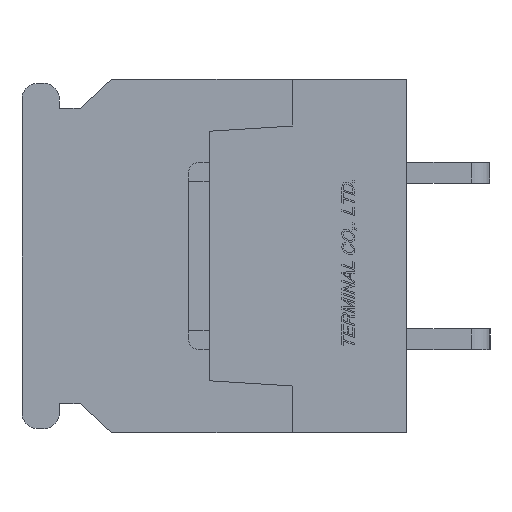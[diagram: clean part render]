
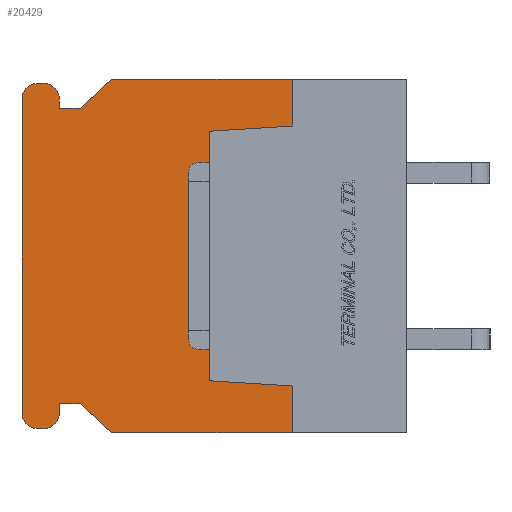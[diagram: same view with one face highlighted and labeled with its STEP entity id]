
A CAD part, left-side view. The second image highlights one B-rep face of the part: STEP entity #20429.
In plain terms, the highlighted planar face has unit normal (-1, 0, 0).
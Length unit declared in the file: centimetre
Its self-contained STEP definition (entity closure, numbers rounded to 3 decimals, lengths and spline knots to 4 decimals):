
#1203=CIRCLE('',#35114,0.075);
#1204=CIRCLE('',#35115,0.075);
#1205=CIRCLE('',#35116,0.075);
#1206=CIRCLE('',#35117,0.075);
#2267=VERTEX_POINT('',#29703);
#2268=VERTEX_POINT('',#29705);
#2324=VERTEX_POINT('',#29847);
#2325=VERTEX_POINT('',#29849);
#2555=VERTEX_POINT('',#30634);
#2556=VERTEX_POINT('',#30636);
#2557=VERTEX_POINT('',#30638);
#2558=VERTEX_POINT('',#30640);
#2559=VERTEX_POINT('',#30642);
#2560=VERTEX_POINT('',#30644);
#2561=VERTEX_POINT('',#30646);
#2562=VERTEX_POINT('',#30648);
#2563=VERTEX_POINT('',#30650);
#2564=VERTEX_POINT('',#30652);
#2565=VERTEX_POINT('',#30654);
#2566=VERTEX_POINT('',#30656);
#2567=VERTEX_POINT('',#30658);
#2568=VERTEX_POINT('',#30661);
#2569=VERTEX_POINT('',#30663);
#2570=VERTEX_POINT('',#30665);
#4256=VECTOR('',#24273,1.);
#4325=VECTOR('',#24368,1.);
#4658=VECTOR('',#25019,1.);
#4659=VECTOR('',#25020,1.);
#4660=VECTOR('',#25021,1.);
#4661=VECTOR('',#25022,1.);
#4662=VECTOR('',#25025,1.);
#4663=VECTOR('',#25028,1.);
#4664=VECTOR('',#25031,1.);
#4665=VECTOR('',#25034,1.);
#4666=VECTOR('',#25035,1.);
#4667=VECTOR('',#25036,1.);
#4668=VECTOR('',#25037,1.);
#4669=VECTOR('',#25038,1.);
#4670=VECTOR('',#25039,1.);
#4671=VECTOR('',#25040,1.);
#6520=LINE('',#29704,#4256);
#6589=LINE('',#29848,#4325);
#6922=LINE('',#30633,#4658);
#6923=LINE('',#30635,#4659);
#6924=LINE('',#30637,#4660);
#6925=LINE('',#30639,#4661);
#6926=LINE('',#30643,#4662);
#6927=LINE('',#30647,#4663);
#6928=LINE('',#30651,#4664);
#6929=LINE('',#30655,#4665);
#6930=LINE('',#30657,#4666);
#6931=LINE('',#30659,#4667);
#6932=LINE('',#30660,#4668);
#6933=LINE('',#30662,#4669);
#6934=LINE('',#30664,#4670);
#6935=LINE('',#30666,#4671);
#9314=EDGE_CURVE('',#2267,#2268,#6520,.T.);
#9387=EDGE_CURVE('',#2324,#2325,#6589,.T.);
#9784=EDGE_CURVE('',#2555,#2325,#6922,.T.);
#9785=EDGE_CURVE('',#2556,#2324,#6923,.T.);
#9786=EDGE_CURVE('',#2557,#2556,#6924,.T.);
#9787=EDGE_CURVE('',#2558,#2557,#6925,.T.);
#9788=EDGE_CURVE('',#2559,#2558,#1203,.T.);
#9789=EDGE_CURVE('',#2560,#2559,#6926,.T.);
#9790=EDGE_CURVE('',#2561,#2560,#1204,.T.);
#9791=EDGE_CURVE('',#2562,#2561,#6927,.T.);
#9792=EDGE_CURVE('',#2563,#2562,#1205,.T.);
#9793=EDGE_CURVE('',#2564,#2563,#6928,.T.);
#9794=EDGE_CURVE('',#2565,#2564,#1206,.T.);
#9795=EDGE_CURVE('',#2566,#2565,#6929,.T.);
#9796=EDGE_CURVE('',#2567,#2566,#6930,.T.);
#9797=EDGE_CURVE('',#2268,#2567,#6931,.T.);
#9798=EDGE_CURVE('',#2267,#2568,#6932,.T.);
#9799=EDGE_CURVE('',#2568,#2569,#6933,.T.);
#9800=EDGE_CURVE('',#2569,#2570,#6934,.T.);
#9801=EDGE_CURVE('',#2570,#2555,#6935,.T.);
#14750=ORIENTED_EDGE('',*,*,#9784,.T.);
#14751=ORIENTED_EDGE('',*,*,#9387,.F.);
#14752=ORIENTED_EDGE('',*,*,#9785,.F.);
#14753=ORIENTED_EDGE('',*,*,#9786,.F.);
#14754=ORIENTED_EDGE('',*,*,#9787,.F.);
#14755=ORIENTED_EDGE('',*,*,#9788,.F.);
#14756=ORIENTED_EDGE('',*,*,#9789,.F.);
#14757=ORIENTED_EDGE('',*,*,#9790,.F.);
#14758=ORIENTED_EDGE('',*,*,#9791,.F.);
#14759=ORIENTED_EDGE('',*,*,#9792,.F.);
#14760=ORIENTED_EDGE('',*,*,#9793,.F.);
#14761=ORIENTED_EDGE('',*,*,#9794,.F.);
#14762=ORIENTED_EDGE('',*,*,#9795,.F.);
#14763=ORIENTED_EDGE('',*,*,#9796,.F.);
#14764=ORIENTED_EDGE('',*,*,#9797,.F.);
#14765=ORIENTED_EDGE('',*,*,#9314,.F.);
#14766=ORIENTED_EDGE('',*,*,#9798,.T.);
#14767=ORIENTED_EDGE('',*,*,#9799,.T.);
#14768=ORIENTED_EDGE('',*,*,#9800,.T.);
#14769=ORIENTED_EDGE('',*,*,#9801,.T.);
#17927=EDGE_LOOP('',(#14750,#14751,#14752,#14753,#14754,#14755,#14756,#14757,
#14758,#14759,#14760,#14761,#14762,#14763,#14764,#14765,#14766,#14767,#14768,
#14769));
#19231=FACE_BOUND('',#17927,.T.);
#20429=ADVANCED_FACE('',(#19231),#21398,.F.);
#21398=PLANE('',#35113);
#24273=DIRECTION('',(0.,1.,0.));
#24368=DIRECTION('',(0.,-1.,0.));
#25018=DIRECTION('',(1.,0.,0.));
#25019=DIRECTION('',(0.,0.,1.));
#25020=DIRECTION('',(0.,-0.731,0.682));
#25021=DIRECTION('',(0.,-1.,0.));
#25022=DIRECTION('',(0.,0.,-1.));
#25023=DIRECTION('',(1.,0.,0.));
#25024=DIRECTION('',(0.,0.,-0.075));
#25025=DIRECTION('',(0.,-1.,0.));
#25026=DIRECTION('',(1.,0.,0.));
#25027=DIRECTION('',(0.,0.,-0.075));
#25028=DIRECTION('',(0.,0.,1.));
#25029=DIRECTION('',(1.,0.,0.));
#25030=DIRECTION('',(0.,0.,-0.075));
#25031=DIRECTION('',(0.,1.,0.));
#25032=DIRECTION('',(1.,0.,0.));
#25033=DIRECTION('',(0.,0.,-0.075));
#25034=DIRECTION('',(0.,0.,-1.));
#25035=DIRECTION('',(0.,1.,0.));
#25036=DIRECTION('',(0.,0.731,0.682));
#25037=DIRECTION('',(0.,0.,1.));
#25038=DIRECTION('',(0.,0.998,0.062));
#25039=DIRECTION('',(0.,0.,1.));
#25040=DIRECTION('',(0.,-0.998,0.062));
#29703=CARTESIAN_POINT('',(-1.,0.55,-0.85));
#29704=CARTESIAN_POINT('',(-1.,0.,-0.85));
#29705=CARTESIAN_POINT('',(-1.,1.42,-0.85));
#29847=CARTESIAN_POINT('',(-1.,1.42,0.85));
#29848=CARTESIAN_POINT('',(-1.,1.42,0.85));
#29849=CARTESIAN_POINT('',(-1.,0.55,0.85));
#30632=CARTESIAN_POINT('',(-1.,0.9383,0.));
#30633=CARTESIAN_POINT('',(-1.,0.55,0.3687));
#30634=CARTESIAN_POINT('',(-1.,0.55,0.625));
#30635=CARTESIAN_POINT('',(-1.,1.57,0.71));
#30636=CARTESIAN_POINT('',(-1.,1.57,0.71));
#30637=CARTESIAN_POINT('',(-1.,1.67,0.71));
#30638=CARTESIAN_POINT('',(-1.,1.67,0.71));
#30639=CARTESIAN_POINT('',(-1.,1.67,0.755));
#30640=CARTESIAN_POINT('',(-1.,1.67,0.755));
#30641=CARTESIAN_POINT('',(-1.,1.745,0.755));
#30642=CARTESIAN_POINT('',(-1.,1.745,0.83));
#30643=CARTESIAN_POINT('',(-1.,1.775,0.83));
#30644=CARTESIAN_POINT('',(-1.,1.775,0.83));
#30645=CARTESIAN_POINT('',(-1.,1.775,0.755));
#30646=CARTESIAN_POINT('',(-1.,1.85,0.755));
#30647=CARTESIAN_POINT('',(-1.,1.85,-0.755));
#30648=CARTESIAN_POINT('',(-1.,1.85,-0.755));
#30649=CARTESIAN_POINT('',(-1.,1.775,-0.755));
#30650=CARTESIAN_POINT('',(-1.,1.775,-0.83));
#30651=CARTESIAN_POINT('',(-1.,1.745,-0.83));
#30652=CARTESIAN_POINT('',(-1.,1.745,-0.83));
#30653=CARTESIAN_POINT('',(-1.,1.745,-0.755));
#30654=CARTESIAN_POINT('',(-1.,1.67,-0.755));
#30655=CARTESIAN_POINT('',(-1.,1.67,-0.71));
#30656=CARTESIAN_POINT('',(-1.,1.67,-0.71));
#30657=CARTESIAN_POINT('',(-1.,1.57,-0.71));
#30658=CARTESIAN_POINT('',(-1.,1.57,-0.71));
#30659=CARTESIAN_POINT('',(-1.,1.42,-0.85));
#30660=CARTESIAN_POINT('',(-1.,0.55,-0.3688));
#30661=CARTESIAN_POINT('',(-1.,0.55,-0.625));
#30662=CARTESIAN_POINT('',(-1.,0.8629,-0.6054));
#30663=CARTESIAN_POINT('',(-1.,0.95,-0.6));
#30664=CARTESIAN_POINT('',(-1.,0.95,0.));
#30665=CARTESIAN_POINT('',(-1.,0.95,0.6));
#30666=CARTESIAN_POINT('',(-1.,0.8629,0.6054));
#35113=AXIS2_PLACEMENT_3D('',#30632,#25018,$);
#35114=AXIS2_PLACEMENT_3D('',#30641,#25023,#25024);
#35115=AXIS2_PLACEMENT_3D('',#30645,#25026,#25027);
#35116=AXIS2_PLACEMENT_3D('',#30649,#25029,#25030);
#35117=AXIS2_PLACEMENT_3D('',#30653,#25032,#25033);
